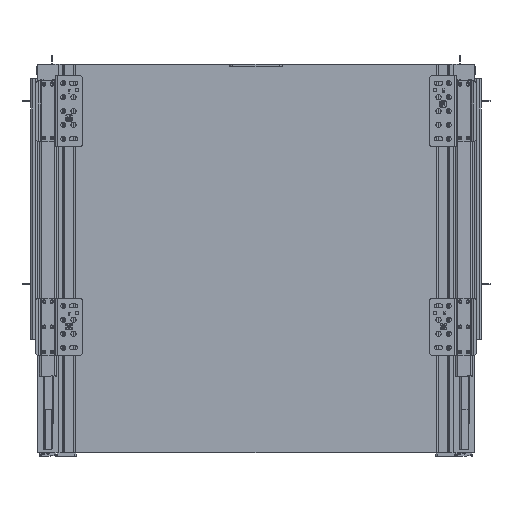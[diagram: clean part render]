
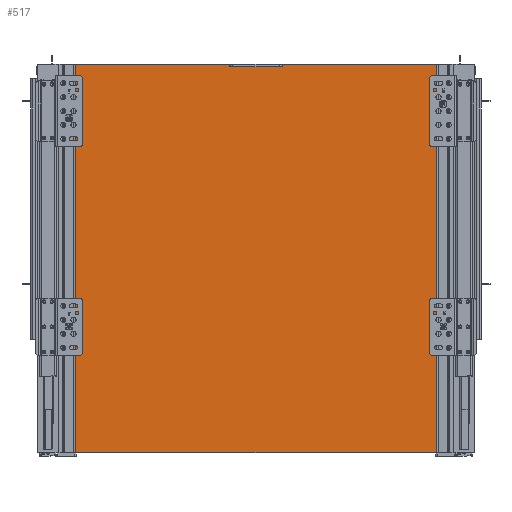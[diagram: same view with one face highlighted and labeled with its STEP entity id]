
A CAD part, front view. The second image highlights one B-rep face of the part: STEP entity #517.
In plain terms, the highlighted planar face has unit normal (0, -1, 0).
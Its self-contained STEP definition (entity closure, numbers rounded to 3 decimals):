
#91=DIRECTION('',(1.,0.,0.));
#92=VECTOR('',#91,60.);
#93=CARTESIAN_POINT('',(-30.,0.,-2.8));
#94=LINE('',#93,#92);
#98=DIRECTION('',(0.,0.,-1.));
#99=VECTOR('',#98,2.8);
#100=CARTESIAN_POINT('',(30.,0.,0.));
#101=LINE('',#100,#99);
#105=DIRECTION('',(0.,0.,-1.));
#106=VECTOR('',#105,447.);
#107=CARTESIAN_POINT('',(-227.,0.,0.));
#108=LINE('',#107,#106);
#112=DIRECTION('',(0.,0.,-1.));
#113=VECTOR('',#112,2.8);
#114=CARTESIAN_POINT('',(-30.,0.,0.));
#115=LINE('',#114,#113);
#141=DIRECTION('',(1.,0.,0.));
#142=VECTOR('',#141,197.);
#143=CARTESIAN_POINT('',(-227.,0.,0.));
#144=LINE('',#143,#142);
#169=DIRECTION('',(1.,0.,0.));
#170=VECTOR('',#169,197.);
#171=CARTESIAN_POINT('',(30.,0.,0.));
#172=LINE('',#171,#170);
#237=DIRECTION('',(0.,0.,-1.));
#238=VECTOR('',#237,447.);
#239=CARTESIAN_POINT('',(227.,0.,0.));
#240=LINE('',#239,#238);
#293=DIRECTION('',(1.,0.,0.));
#294=VECTOR('',#293,454.);
#295=CARTESIAN_POINT('',(-227.,0.,-447.));
#296=LINE('',#295,#294);
#373=CARTESIAN_POINT('',(-227.,0.,0.));
#375=VERTEX_POINT('',#373);
#378=CARTESIAN_POINT('',(227.,0.,0.));
#379=VERTEX_POINT('',#378);
#380=CARTESIAN_POINT('',(-227.,0.,-447.));
#381=CARTESIAN_POINT('',(227.,0.,-447.));
#382=VERTEX_POINT('',#380);
#383=VERTEX_POINT('',#381);
#408=CARTESIAN_POINT('',(-30.,0.,-2.8));
#409=CARTESIAN_POINT('',(30.,0.,-2.8));
#410=VERTEX_POINT('',#408);
#411=VERTEX_POINT('',#409);
#412=CARTESIAN_POINT('',(-30.,0.,0.));
#413=VERTEX_POINT('',#412);
#414=CARTESIAN_POINT('',(30.,0.,0.));
#415=VERTEX_POINT('',#414);
#496=CARTESIAN_POINT('',(-227.,0.,0.));
#497=DIRECTION('',(0.,-1.,0.));
#498=DIRECTION('',(1.,0.,0.));
#499=AXIS2_PLACEMENT_3D('',#496,#497,#498);
#500=PLANE('',#499);
#501=ORIENTED_EDGE('',*,*,#460,.T.);
#503=ORIENTED_EDGE('',*,*,#502,.F.);
#505=ORIENTED_EDGE('',*,*,#504,.T.);
#507=ORIENTED_EDGE('',*,*,#506,.T.);
#509=ORIENTED_EDGE('',*,*,#508,.F.);
#511=ORIENTED_EDGE('',*,*,#510,.F.);
#513=ORIENTED_EDGE('',*,*,#512,.T.);
#514=ORIENTED_EDGE('',*,*,#489,.T.);
#515=EDGE_LOOP('',(#501,#503,#505,#507,#509,#511,#513,#514));
#516=FACE_OUTER_BOUND('',#515,.F.);
#460=EDGE_CURVE('',#410,#411,#94,.T.);
#489=EDGE_CURVE('',#413,#410,#115,.T.);
#502=EDGE_CURVE('',#415,#411,#101,.T.);
#504=EDGE_CURVE('',#415,#379,#172,.T.);
#506=EDGE_CURVE('',#379,#383,#240,.T.);
#508=EDGE_CURVE('',#382,#383,#296,.T.);
#510=EDGE_CURVE('',#375,#382,#108,.T.);
#512=EDGE_CURVE('',#375,#413,#144,.T.);
#517=ADVANCED_FACE('',(#516),#500,.T.);
